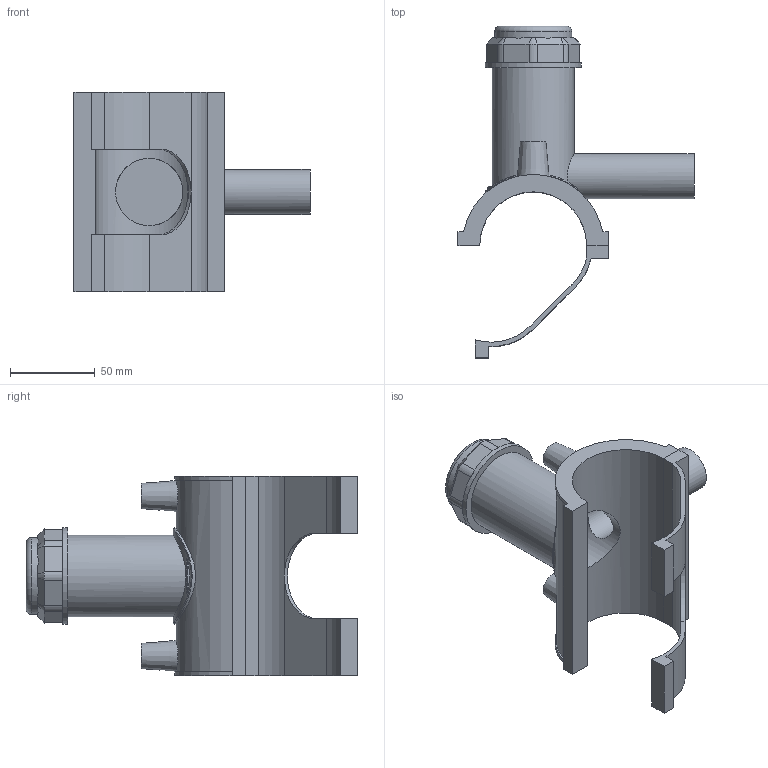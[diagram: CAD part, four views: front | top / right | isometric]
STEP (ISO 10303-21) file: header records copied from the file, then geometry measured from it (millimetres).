
FILE_DESCRIPTION(/* description */ ('PLASSON TAPPING SADDLE 2''''IPS x 1 3/4''''IPS'),/* implementation_level */ '2;1');
FILE_NAME(/* name */ 'C:\Dropbox\KIMPROJECTS-Inventor 2019\99-16-3568-Processing Inch\ASTM ElectroFusion 2021\5963B\5963BB03020007.ipt.stp',/* time_stamp */ '2021-08-30T09:54:59+03:00',/* author */ ('KIM'),/* organization */ (''),/* preprocessor_version */ 'ST-DEVELOPER v17.2',/* originating_system */ 'Autodesk Inventor 2019',/* authorisation */ '');
FILE_SCHEMA (('AUTOMOTIVE_DESIGN { 1 0 10303 214 3 1 1 }'));
Length unit declared in the file: millimetre
Products named in the file (1): 5963BB03020007
Bounding box: 139.45 x 195.95 x 118.11 mm (x, y, z)
Volume: 268213.5 mm3; surface area: 93271.4 mm2
Topology: 2 solids, 2 shells, 109 faces, 275 edges, 181 vertices
Faces by surface type: plane 64, cylinder 32, cone 11, torus 1, bspline 1
Full cylindrical faces by diameter (mm): 4 x2, 10 x2, 21.28 x1, 26.6 x1, 39.753 x1, 45.432 x1, 48.272 x1, 56.79 x1
Entity records: 3824 total; most frequent: CARTESIAN_POINT 1112, DIRECTION 562, ORIENTED_EDGE 550, EDGE_CURVE 275, AXIS2_PLACEMENT_3D 203, VERTEX_POINT 181, LINE 156, VECTOR 156
